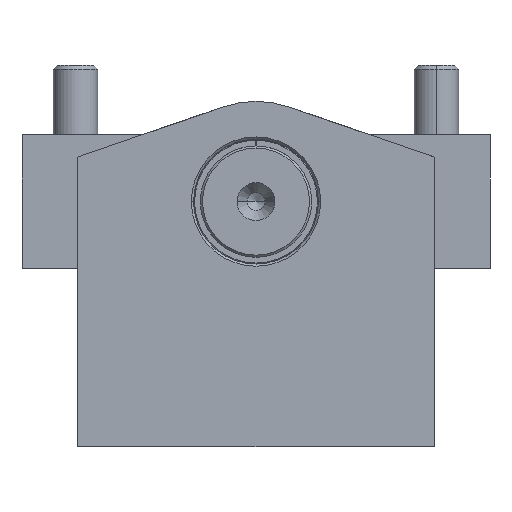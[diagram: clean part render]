
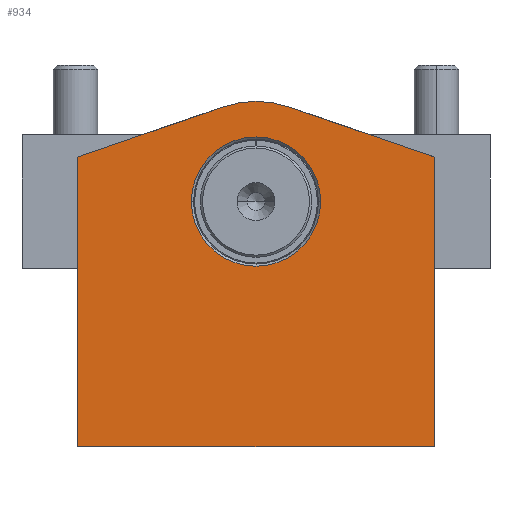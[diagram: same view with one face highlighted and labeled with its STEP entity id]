
A CAD part, front view. The second image highlights one B-rep face of the part: STEP entity #934.
In plain terms, the highlighted planar face has unit normal (0, -1, 0).
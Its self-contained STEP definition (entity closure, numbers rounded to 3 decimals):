
#33 = VERTEX_POINT ( 'NONE', #103 ) ;
#61 = EDGE_CURVE ( 'NONE', #5250, #3856, #1138, .T. ) ;
#103 = CARTESIAN_POINT ( 'NONE',  ( 14.5, -75.5, -47. ) ) ;
#200 = VECTOR ( 'NONE', #5112, 1000. ) ;
#359 = ORIENTED_EDGE ( 'NONE', *, *, #937, .T. ) ;
#371 = CARTESIAN_POINT ( 'NONE',  ( 0., -75.5, -47. ) ) ;
#385 = AXIS2_PLACEMENT_3D ( 'NONE', #4535, #6016, #1836 ) ;
#422 = CARTESIAN_POINT ( 'NONE',  ( 7.339, -75.5, -25.731 ) ) ;
#741 = CARTESIAN_POINT ( 'NONE',  ( -14.5, -75.5, -47. ) ) ;
#933 = CIRCLE ( 'NONE', #385, 14.5 ) ;
#934 = ADVANCED_FACE ( 'NONE', ( #3989, #1514 ), #989, .F. ) ;
#937 = EDGE_CURVE ( 'NONE', #2139, #3295, #1786, .T. ) ;
#989 = PLANE ( 'NONE',  #4662 ) ;
#1034 = VECTOR ( 'NONE', #5535, 1000. ) ;
#1138 = LINE ( 'NONE', #6305, #4213 ) ;
#1301 = DIRECTION ( 'NONE',  ( 0., -1., 0. ) ) ;
#1320 = LINE ( 'NONE', #1759, #2655 ) ;
#1337 = EDGE_LOOP ( 'NONE', ( #3429, #2041, #6581, #359, #4456, #1988 ) ) ;
#1362 = VECTOR ( 'NONE', #1708, 1000. ) ;
#1445 = DIRECTION ( 'NONE',  ( 0., 1., 0. ) ) ;
#1514 = FACE_OUTER_BOUND ( 'NONE', #1337, .T. ) ;
#1542 = DIRECTION ( 'NONE',  ( -1., 0., 0. ) ) ;
#1598 = LINE ( 'NONE', #2094, #200 ) ;
#1650 = VERTEX_POINT ( 'NONE', #2800 ) ;
#1708 = DIRECTION ( 'NONE',  ( 0., 0., -1. ) ) ;
#1759 = CARTESIAN_POINT ( 'NONE',  ( -40., -75.5, -37. ) ) ;
#1786 = CIRCLE ( 'NONE', #5186, 22.5 ) ;
#1836 = DIRECTION ( 'NONE',  ( 1., 0., 0. ) ) ;
#1844 = CARTESIAN_POINT ( 'NONE',  ( 40., -75.5, -102. ) ) ;
#1959 = DIRECTION ( 'NONE',  ( 0., -1., 0. ) ) ;
#1988 = ORIENTED_EDGE ( 'NONE', *, *, #5169, .T. ) ;
#2041 = ORIENTED_EDGE ( 'NONE', *, *, #61, .T. ) ;
#2094 = CARTESIAN_POINT ( 'NONE',  ( 40., -75.5, -102. ) ) ;
#2139 = VERTEX_POINT ( 'NONE', #4402 ) ;
#2148 = EDGE_CURVE ( 'NONE', #2813, #33, #933, .T. ) ;
#2267 = EDGE_CURVE ( 'NONE', #3856, #2139, #3462, .T. ) ;
#2425 = VERTEX_POINT ( 'NONE', #6336 ) ;
#2655 = VECTOR ( 'NONE', #3804, 1000. ) ;
#2800 = CARTESIAN_POINT ( 'NONE',  ( -40., -75.5, -37. ) ) ;
#2813 = VERTEX_POINT ( 'NONE', #741 ) ;
#3109 = CARTESIAN_POINT ( 'NONE',  ( 0., -75.5, -47. ) ) ;
#3295 = VERTEX_POINT ( 'NONE', #6321 ) ;
#3429 = ORIENTED_EDGE ( 'NONE', *, *, #6583, .T. ) ;
#3462 = LINE ( 'NONE', #422, #1034 ) ;
#3589 = CARTESIAN_POINT ( 'NONE',  ( 40., -75.5, -37. ) ) ;
#3651 = DIRECTION ( 'NONE',  ( 0., 0., 1. ) ) ;
#3711 = LINE ( 'NONE', #4781, #1362 ) ;
#3804 = DIRECTION ( 'NONE',  ( -0.945, 0., -0.326 ) ) ;
#3856 = VERTEX_POINT ( 'NONE', #3589 ) ;
#3989 = FACE_BOUND ( 'NONE', #5120, .T. ) ;
#4213 = VECTOR ( 'NONE', #3651, 1000. ) ;
#4402 = CARTESIAN_POINT ( 'NONE',  ( 7.339, -75.5, -25.731 ) ) ;
#4456 = ORIENTED_EDGE ( 'NONE', *, *, #4520, .T. ) ;
#4520 = EDGE_CURVE ( 'NONE', #3295, #1650, #1320, .T. ) ;
#4535 = CARTESIAN_POINT ( 'NONE',  ( 0., -75.5, -47. ) ) ;
#4662 = AXIS2_PLACEMENT_3D ( 'NONE', #6047, #1445, #1542 ) ;
#4781 = CARTESIAN_POINT ( 'NONE',  ( -40., -75.5, -102. ) ) ;
#4793 = AXIS2_PLACEMENT_3D ( 'NONE', #3109, #1301, #5312 ) ;
#4853 = ORIENTED_EDGE ( 'NONE', *, *, #6256, .F. ) ;
#5058 = ORIENTED_EDGE ( 'NONE', *, *, #2148, .F. ) ;
#5112 = DIRECTION ( 'NONE',  ( 1., 0., 0. ) ) ;
#5120 = EDGE_LOOP ( 'NONE', ( #4853, #5058 ) ) ;
#5169 = EDGE_CURVE ( 'NONE', #1650, #2425, #3711, .T. ) ;
#5186 = AXIS2_PLACEMENT_3D ( 'NONE', #371, #1959, #5457 ) ;
#5250 = VERTEX_POINT ( 'NONE', #1844 ) ;
#5312 = DIRECTION ( 'NONE',  ( 1., 0., 0. ) ) ;
#5457 = DIRECTION ( 'NONE',  ( -0.326, 0., 0.945 ) ) ;
#5535 = DIRECTION ( 'NONE',  ( -0.945, 0., 0.326 ) ) ;
#5953 = CIRCLE ( 'NONE', #4793, 14.5 ) ;
#6016 = DIRECTION ( 'NONE',  ( 0., -1., 0. ) ) ;
#6047 = CARTESIAN_POINT ( 'NONE',  ( 0., -75.5, -67.657 ) ) ;
#6256 = EDGE_CURVE ( 'NONE', #33, #2813, #5953, .T. ) ;
#6305 = CARTESIAN_POINT ( 'NONE',  ( 40., -75.5, -37. ) ) ;
#6321 = CARTESIAN_POINT ( 'NONE',  ( -7.339, -75.5, -25.731 ) ) ;
#6336 = CARTESIAN_POINT ( 'NONE',  ( -40., -75.5, -102. ) ) ;
#6581 = ORIENTED_EDGE ( 'NONE', *, *, #2267, .T. ) ;
#6583 = EDGE_CURVE ( 'NONE', #2425, #5250, #1598, .T. ) ;
